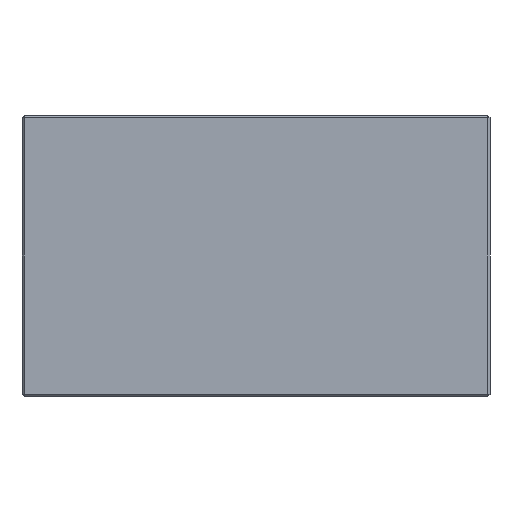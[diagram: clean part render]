
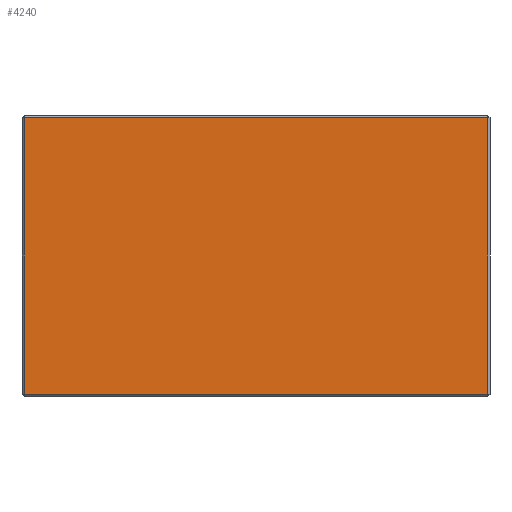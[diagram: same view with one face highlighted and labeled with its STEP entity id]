
A CAD part, front view. The second image highlights one B-rep face of the part: STEP entity #4240.
In plain terms, the highlighted planar face has unit normal (0, -1, 0).
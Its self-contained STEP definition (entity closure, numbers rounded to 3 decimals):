
#407 = ORIENTED_EDGE ( 'NONE', *, *, #2344, .T. ) ;
#885 = EDGE_CURVE ( 'NONE', #3907, #4120, #5973, .T. ) ;
#1029 = DIRECTION ( 'NONE',  ( 0., 0., -1. ) ) ;
#1053 = DIRECTION ( 'NONE',  ( 0., -1., 0. ) ) ;
#1110 = CARTESIAN_POINT ( 'NONE',  ( 0., 0., -60. ) ) ;
#1115 = CARTESIAN_POINT ( 'NONE',  ( 99.5, 0., -59.5 ) ) ;
#1141 = PLANE ( 'NONE',  #6489 ) ;
#1257 = VECTOR ( 'NONE', #9999, 1000. ) ;
#1635 = CARTESIAN_POINT ( 'NONE',  ( 0.5, 0., -59.5 ) ) ;
#1666 = LINE ( 'NONE', #1991, #1678 ) ;
#1678 = VECTOR ( 'NONE', #2015, 1000. ) ;
#1991 = CARTESIAN_POINT ( 'NONE',  ( 0., 0., -0.5 ) ) ;
#2015 = DIRECTION ( 'NONE',  ( -1., 0., 0. ) ) ;
#2344 = EDGE_CURVE ( 'NONE', #8841, #6770, #8627, .T. ) ;
#2384 = CARTESIAN_POINT ( 'NONE',  ( 0.5, 0., -0.5 ) ) ;
#3228 = DIRECTION ( 'NONE',  ( 1., 0., 0. ) ) ;
#3645 = CARTESIAN_POINT ( 'NONE',  ( 0., 0., -59.5 ) ) ;
#3729 = EDGE_CURVE ( 'NONE', #4120, #8841, #6152, .T. ) ;
#3907 = VERTEX_POINT ( 'NONE', #2384 ) ;
#4120 = VERTEX_POINT ( 'NONE', #1635 ) ;
#4240 = ADVANCED_FACE ( 'NONE', ( #5382 ), #1141, .T. ) ;
#5382 = FACE_OUTER_BOUND ( 'NONE', #8178, .T. ) ;
#5893 = EDGE_CURVE ( 'NONE', #6770, #3907, #1666, .T. ) ;
#5957 = CARTESIAN_POINT ( 'NONE',  ( 99.5, 0., -0.5 ) ) ;
#5973 = LINE ( 'NONE', #9973, #1257 ) ;
#6152 = LINE ( 'NONE', #3645, #6161 ) ;
#6161 = VECTOR ( 'NONE', #3228, 1000. ) ;
#6489 = AXIS2_PLACEMENT_3D ( 'NONE', #1110, #1053, #1029 ) ;
#6770 = VERTEX_POINT ( 'NONE', #5957 ) ;
#7969 = ORIENTED_EDGE ( 'NONE', *, *, #5893, .T. ) ;
#8178 = EDGE_LOOP ( 'NONE', ( #7969, #9093, #9198, #407 ) ) ;
#8490 = VECTOR ( 'NONE', #9534, 1000. ) ;
#8627 = LINE ( 'NONE', #9787, #8490 ) ;
#8841 = VERTEX_POINT ( 'NONE', #1115 ) ;
#9093 = ORIENTED_EDGE ( 'NONE', *, *, #885, .T. ) ;
#9198 = ORIENTED_EDGE ( 'NONE', *, *, #3729, .T. ) ;
#9534 = DIRECTION ( 'NONE',  ( 0., 0., 1. ) ) ;
#9787 = CARTESIAN_POINT ( 'NONE',  ( 99.5, 0., -60. ) ) ;
#9973 = CARTESIAN_POINT ( 'NONE',  ( 0.5, 0., -60. ) ) ;
#9999 = DIRECTION ( 'NONE',  ( 0., 0., -1. ) ) ;
